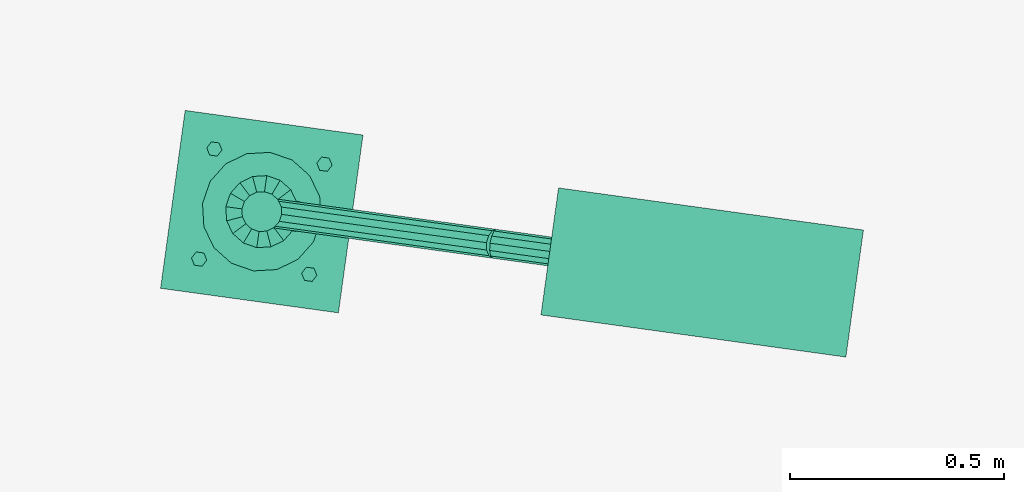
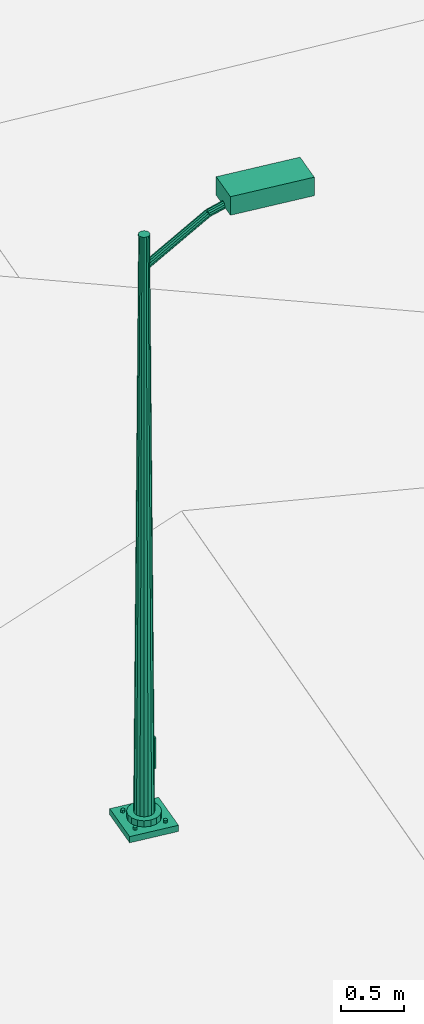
# Not in any storey, part 59 of 75: 1 light fixture.
"""IFC4 model written with IfcOpenShell, lengths in metres."""

from ifc_helpers import new_model, si_unit, direction, origin, origin_with_axes, place, context, subcontext, project, spatial, triangles, element, save


model = new_model("IFC4")

# Units and contexts
model_context = context("Model", 3, precision=1e-05, world=origin_with_axes(), true_north=direction((0.0, 1.0)))
body_context = subcontext(model_context, "Body", "Model", "MODEL_VIEW")
ifc_project = project(units=[si_unit("AREAUNIT", "SQUARE_METRE"), si_unit("VOLUMEUNIT", "CUBIC_METRE"), si_unit("LENGTHUNIT", "METRE")], contexts=[model_context])

# Site
site_placement = place(None, origin_with_axes())
site = spatial("IfcSite", under=ifc_project, at=site_placement, Name="Parcela industrial Jinhong")

# Light fixture
light_fixture_placement = place(None, origin())
element("IfcLightFixture", 1, at=light_fixture_placement, inside=site, Name="Luminaria LED L04 · provisional", ObjectType="Luminaria exterior provisional", PredefinedType="USERDEFINED", context=body_context, shape_type="Tessellation", body=[
    triangles([(122.013239, 53.820711, 2.418719), (122.013239, 53.820711, 2.478719), (122.070711, 54.236761, 2.418719), (122.070711, 54.236761, 2.478719), (122.429289, 53.763239, 2.418719), (122.429289, 53.763239, 2.478719), (122.486761, 54.179289, 2.418719), (122.486761, 54.179289, 2.478719)], [[2, 4, 1], [5, 2, 1], [1, 4, 3], [3, 5, 1], [2, 8, 4], [6, 2, 5], [6, 8, 2], [4, 8, 3], [7, 5, 3], [3, 8, 7], [7, 6, 5], [8, 6, 7]], closed=True),
    triangles([(122.25, 54.0, 2.478719), (122.388683, 53.980843, 2.478719), (122.388683, 53.980843, 2.538719), (122.25, 54.0, 2.538719), (122.385458, 54.035373, 2.478719), (122.385458, 54.035373, 2.538719), (122.36161, 54.084517, 2.478719), (122.36161, 54.084517, 2.538719), (122.320771, 54.120795, 2.478719), (122.320771, 54.120795, 2.538719), (122.269157, 54.138683, 2.478719), (122.269157, 54.138683, 2.538719), (122.214627, 54.135458, 2.478719), (122.214627, 54.135458, 2.538719), (122.165483, 54.11161, 2.478719), (122.165483, 54.11161, 2.538719), (122.129205, 54.070771, 2.478719), (122.129205, 54.070771, 2.538719), (122.111317, 54.019157, 2.478719), (122.111317, 54.019157, 2.538719), (122.114542, 53.964627, 2.478719), (122.114542, 53.964627, 2.538719), (122.13839, 53.915483, 2.478719), (122.13839, 53.915483, 2.538719), (122.179229, 53.879205, 2.478719), (122.179229, 53.879205, 2.538719), (122.230843, 53.861317, 2.478719), (122.230843, 53.861317, 2.538719), (122.285373, 53.864542, 2.478719), (122.285373, 53.864542, 2.538719), (122.334517, 53.88839, 2.478719), (122.334517, 53.88839, 2.538719), (122.370795, 53.929229, 2.478719), (122.370795, 53.929229, 2.538719)], [[2, 1, 5], [2, 5, 3], [3, 5, 6], [3, 6, 4], [5, 1, 7], [5, 7, 6], [6, 7, 8], [6, 8, 4], [7, 1, 9], [7, 9, 8], [8, 9, 10], [8, 10, 4], [9, 1, 11], [9, 11, 10], [10, 11, 12], [10, 12, 4], [11, 1, 13], [11, 13, 12], [12, 13, 14], [12, 14, 4], [13, 1, 15], [13, 15, 14], [14, 15, 16], [14, 16, 4], [15, 1, 17], [15, 17, 16], [16, 17, 18], [16, 18, 4], [17, 1, 19], [17, 19, 18], [18, 19, 20], [18, 20, 4], [19, 1, 21], [19, 21, 20], [20, 21, 22], [20, 22, 4], [21, 1, 23], [21, 23, 22], [22, 23, 24], [22, 24, 4], [23, 1, 25], [23, 25, 24], [24, 25, 26], [24, 26, 4], [25, 1, 27], [25, 27, 26], [26, 27, 28], [26, 28, 4], [27, 1, 29], [27, 29, 28], [28, 29, 30], [28, 30, 4], [29, 1, 31], [29, 31, 30], [30, 31, 32], [30, 32, 4], [31, 1, 33], [31, 33, 32], [32, 33, 34], [32, 34, 4], [33, 1, 2], [33, 2, 34], [34, 2, 3], [34, 3, 4]], closed=True),
    triangles([(122.3342, 53.988369, 2.538719), (122.332242, 54.021476, 2.538719), (122.317763, 54.051314, 2.538719), (122.292968, 54.07334, 2.538719), (122.261631, 54.0842, 2.538719), (122.228524, 54.082242, 2.538719), (122.198686, 54.067763, 2.538719), (122.17666, 54.042968, 2.538719), (122.1658, 54.011631, 2.538719), (122.167758, 53.978524, 2.538719), (122.182237, 53.948686, 2.538719), (122.207032, 53.92666, 2.538719), (122.238369, 53.9158, 2.538719), (122.271476, 53.917758, 2.538719), (122.301314, 53.932237, 2.538719), (122.32334, 53.957032, 2.538719), (122.294577, 53.993842, 8.118719), (122.29354, 54.01137, 8.118719), (122.285875, 54.027166, 8.118719), (122.272748, 54.038827, 8.118719), (122.256158, 54.044577, 8.118719), (122.23863, 54.04354, 8.118719), (122.222834, 54.035875, 8.118719), (122.211173, 54.022748, 8.118719), (122.205423, 54.006158, 8.118719), (122.20646, 53.98863, 8.118719), (122.214125, 53.972834, 8.118719), (122.227252, 53.961173, 8.118719), (122.243842, 53.955423, 8.118719), (122.26137, 53.95646, 8.118719), (122.277166, 53.964125, 8.118719), (122.288827, 53.977252, 8.118719)], [[31, 14, 15], [30, 14, 31], [29, 14, 30], [13, 14, 29], [26, 10, 11], [26, 11, 27], [9, 10, 26], [26, 25, 9], [4, 10, 9], [1, 16, 4], [13, 12, 4], [4, 6, 5], [9, 8, 4], [4, 2, 1], [4, 16, 15], [3, 2, 4], [4, 12, 11], [11, 10, 4], [4, 14, 13], [15, 14, 4], [7, 6, 4], [4, 8, 7], [1, 2, 18], [18, 17, 1], [32, 16, 1], [1, 17, 32], [15, 16, 32], [32, 31, 15], [11, 12, 28], [27, 11, 28], [28, 12, 13], [13, 29, 28], [21, 4, 5], [20, 4, 21], [7, 8, 24], [23, 7, 24], [9, 25, 24], [24, 8, 9], [3, 4, 19], [19, 4, 20], [19, 2, 3], [19, 18, 2], [22, 32, 17], [22, 26, 27], [17, 18, 22], [22, 19, 20], [27, 28, 22], [30, 31, 22], [22, 29, 30], [25, 26, 22], [23, 24, 22], [31, 32, 22], [22, 28, 29], [20, 21, 22], [22, 24, 25], [18, 19, 22], [22, 6, 7], [22, 7, 23], [5, 6, 22], [22, 21, 5]], closed=True),
    triangles([(122.25, 54.0, 8.118719), (122.296558, 53.993569, 8.118719), (122.296558, 53.993569, 8.138719), (122.25, 54.0, 8.138719), (122.295475, 54.011875, 8.118719), (122.295475, 54.011875, 8.138719), (122.287469, 54.028374, 8.118719), (122.287469, 54.028374, 8.138719), (122.273759, 54.040553, 8.118719), (122.273759, 54.040553, 8.138719), (122.256431, 54.046558, 8.118719), (122.256431, 54.046558, 8.138719), (122.238125, 54.045475, 8.118719), (122.238125, 54.045475, 8.138719), (122.221626, 54.037469, 8.118719), (122.221626, 54.037469, 8.138719), (122.209447, 54.023759, 8.118719), (122.209447, 54.023759, 8.138719), (122.203442, 54.006431, 8.118719), (122.203442, 54.006431, 8.138719), (122.204525, 53.988125, 8.118719), (122.204525, 53.988125, 8.138719), (122.212531, 53.971626, 8.118719), (122.212531, 53.971626, 8.138719), (122.226241, 53.959447, 8.118719), (122.226241, 53.959447, 8.138719), (122.243569, 53.953442, 8.118719), (122.243569, 53.953442, 8.138719), (122.261875, 53.954525, 8.118719), (122.261875, 53.954525, 8.138719), (122.278374, 53.962531, 8.118719), (122.278374, 53.962531, 8.138719), (122.290553, 53.976241, 8.118719), (122.290553, 53.976241, 8.138719)], [[2, 1, 5], [2, 5, 3], [3, 5, 6], [3, 6, 4], [5, 1, 7], [5, 7, 6], [6, 7, 8], [6, 8, 4], [7, 1, 9], [7, 9, 8], [8, 9, 10], [8, 10, 4], [9, 1, 11], [9, 11, 10], [10, 11, 12], [10, 12, 4], [11, 1, 13], [11, 13, 12], [12, 13, 14], [12, 14, 4], [13, 1, 15], [13, 15, 14], [14, 15, 16], [14, 16, 4], [15, 1, 17], [15, 17, 16], [16, 17, 18], [16, 18, 4], [17, 1, 19], [17, 19, 18], [18, 19, 20], [18, 20, 4], [19, 1, 21], [19, 21, 20], [20, 21, 22], [20, 22, 4], [21, 1, 23], [21, 23, 22], [22, 23, 24], [22, 24, 4], [23, 1, 25], [23, 25, 24], [24, 25, 26], [24, 26, 4], [25, 1, 27], [25, 27, 26], [26, 27, 28], [26, 28, 4], [27, 1, 29], [27, 29, 28], [28, 29, 30], [28, 30, 4], [29, 1, 31], [29, 31, 30], [30, 31, 32], [30, 32, 4], [31, 1, 33], [31, 33, 32], [32, 33, 34], [32, 34, 4], [33, 1, 2], [33, 2, 34], [34, 2, 3], [34, 3, 4]], closed=True),
    triangles([(122.103434, 53.889012, 2.478719), (122.121265, 53.886549, 2.478719), (122.121265, 53.886549, 2.503719), (122.103434, 53.889012, 2.503719), (122.114482, 53.903222, 2.478719), (122.114482, 53.903222, 2.503719), (122.096652, 53.905685, 2.478719), (122.096652, 53.905685, 2.503719), (122.085603, 53.891475, 2.478719), (122.085603, 53.891475, 2.503719), (122.092385, 53.874802, 2.478719), (122.092385, 53.874802, 2.503719), (122.110216, 53.872338, 2.478719), (122.110216, 53.872338, 2.503719)], [[2, 1, 5], [2, 5, 3], [3, 5, 6], [3, 6, 4], [5, 1, 7], [5, 7, 6], [6, 7, 8], [6, 8, 4], [7, 1, 9], [7, 9, 8], [8, 9, 10], [8, 10, 4], [9, 1, 11], [9, 11, 10], [10, 11, 12], [10, 12, 4], [11, 1, 13], [11, 13, 12], [12, 13, 14], [12, 14, 4], [13, 1, 2], [13, 2, 14], [14, 2, 3], [14, 3, 4]], closed=True),
    triangles([(122.139012, 54.146566, 2.478719), (122.156843, 54.144103, 2.478719), (122.156843, 54.144103, 2.503719), (122.139012, 54.146566, 2.503719), (122.15006, 54.160776, 2.478719), (122.15006, 54.160776, 2.503719), (122.13223, 54.163239, 2.478719), (122.13223, 54.163239, 2.503719), (122.121181, 54.149029, 2.478719), (122.121181, 54.149029, 2.503719), (122.127963, 54.132356, 2.478719), (122.127963, 54.132356, 2.503719), (122.145794, 54.129893, 2.478719), (122.145794, 54.129893, 2.503719)], [[2, 1, 5], [2, 5, 3], [3, 5, 6], [3, 6, 4], [5, 1, 7], [5, 7, 6], [6, 7, 8], [6, 8, 4], [7, 1, 9], [7, 9, 8], [8, 9, 10], [8, 10, 4], [9, 1, 11], [9, 11, 10], [10, 11, 12], [10, 12, 4], [11, 1, 13], [11, 13, 12], [12, 13, 14], [12, 14, 4], [13, 1, 2], [13, 2, 14], [14, 2, 3], [14, 3, 4]], closed=True),
    triangles([(122.360988, 53.853434, 2.478719), (122.378819, 53.850971, 2.478719), (122.378819, 53.850971, 2.503719), (122.360988, 53.853434, 2.503719), (122.372037, 53.867644, 2.478719), (122.372037, 53.867644, 2.503719), (122.354206, 53.870107, 2.478719), (122.354206, 53.870107, 2.503719), (122.343157, 53.855897, 2.478719), (122.343157, 53.855897, 2.503719), (122.34994, 53.839224, 2.478719), (122.34994, 53.839224, 2.503719), (122.36777, 53.836761, 2.478719), (122.36777, 53.836761, 2.503719)], [[2, 1, 5], [2, 5, 3], [3, 5, 6], [3, 6, 4], [5, 1, 7], [5, 7, 6], [6, 7, 8], [6, 8, 4], [7, 1, 9], [7, 9, 8], [8, 9, 10], [8, 10, 4], [9, 1, 11], [9, 11, 10], [10, 11, 12], [10, 12, 4], [11, 1, 13], [11, 13, 12], [12, 13, 14], [12, 14, 4], [13, 1, 2], [13, 2, 14], [14, 2, 3], [14, 3, 4]], closed=True),
    triangles([(122.396566, 54.110988, 2.478719), (122.414397, 54.108525, 2.478719), (122.414397, 54.108525, 2.503719), (122.396566, 54.110988, 2.503719), (122.407615, 54.125198, 2.478719), (122.407615, 54.125198, 2.503719), (122.389784, 54.127662, 2.478719), (122.389784, 54.127662, 2.503719), (122.378735, 54.113451, 2.478719), (122.378735, 54.113451, 2.503719), (122.385518, 54.096778, 2.478719), (122.385518, 54.096778, 2.503719), (122.403348, 54.094315, 2.478719), (122.403348, 54.094315, 2.503719)], [[2, 1, 5], [2, 5, 3], [3, 5, 6], [3, 6, 4], [5, 1, 7], [5, 7, 6], [6, 7, 8], [6, 8, 4], [7, 1, 9], [7, 9, 8], [8, 9, 10], [8, 10, 4], [9, 1, 11], [9, 11, 10], [10, 11, 12], [10, 12, 4], [11, 1, 13], [11, 13, 12], [12, 13, 14], [12, 14, 4], [13, 1, 2], [13, 2, 14], [14, 2, 3], [14, 3, 4]], closed=True),
    triangles([(122.319505, 53.955066, 2.948719), (122.319505, 53.955066, 3.248719), (122.329084, 54.024408, 2.948719), (122.329084, 54.024408, 3.248719), (122.331392, 53.953424, 2.948719), (122.331392, 53.953424, 3.248719), (122.340971, 54.022766, 2.948719), (122.340971, 54.022766, 3.248719)], [[2, 4, 1], [5, 2, 1], [1, 4, 3], [3, 5, 1], [2, 8, 4], [6, 2, 5], [6, 8, 2], [4, 8, 3], [7, 5, 3], [3, 8, 7], [7, 6, 5], [8, 6, 7]], closed=True),
    triangles([(122.25, 54.0, 7.818719), (122.269145, 53.997355, 7.790746), (122.813971, 53.922094, 8.170746), (122.794826, 53.924739, 8.198719), (122.268906, 54.01455, 7.794494), (122.813733, 53.939289, 8.174494), (122.263602, 54.027846, 7.804732), (122.808428, 53.952585, 8.184732), (122.254653, 54.03368, 7.818719), (122.799479, 53.958419, 8.198719), (122.244457, 54.03049, 7.832705), (122.789283, 53.955229, 8.212705), (122.235746, 54.01913, 7.842944), (122.780573, 53.943869, 8.222944), (122.230855, 54.002645, 7.846692), (122.775681, 53.927384, 8.226692), (122.231094, 53.98545, 7.842944), (122.77592, 53.910189, 8.222944), (122.236398, 53.972154, 7.832705), (122.781225, 53.896893, 8.212705), (122.245347, 53.96632, 7.818719), (122.790174, 53.891059, 8.198719), (122.255543, 53.96951, 7.804732), (122.80037, 53.894249, 8.184732), (122.264254, 53.98087, 7.794494), (122.80908, 53.905609, 8.174494)], [[2, 1, 5], [2, 5, 3], [3, 5, 6], [3, 6, 4], [5, 1, 7], [5, 7, 6], [6, 7, 8], [6, 8, 4], [7, 1, 9], [7, 9, 8], [8, 9, 10], [8, 10, 4], [9, 1, 11], [9, 11, 10], [10, 11, 12], [10, 12, 4], [11, 1, 13], [11, 13, 12], [12, 13, 14], [12, 14, 4], [13, 1, 15], [13, 15, 14], [14, 15, 16], [14, 16, 4], [15, 1, 17], [15, 17, 16], [16, 17, 18], [16, 18, 4], [17, 1, 19], [17, 19, 18], [18, 19, 20], [18, 20, 4], [19, 1, 21], [19, 21, 20], [20, 21, 22], [20, 22, 4], [21, 1, 23], [21, 23, 22], [22, 23, 24], [22, 24, 4], [23, 1, 25], [23, 25, 24], [24, 25, 26], [24, 26, 4], [25, 1, 2], [25, 2, 26], [26, 2, 3], [26, 3, 4]], closed=True),
    triangles([(122.794826, 53.924739, 8.198719), (122.80575, 53.92323, 8.166557), (123.152457, 53.875337, 8.286557), (123.141534, 53.876846, 8.318719), (122.806612, 53.940272, 8.170866), (123.15332, 53.892379, 8.290866), (122.804317, 53.953152, 8.182638), (123.151025, 53.905259, 8.302638), (122.799479, 53.958419, 8.198719), (123.146187, 53.910526, 8.318719), (122.793394, 53.954661, 8.2148), (123.140102, 53.906768, 8.3348), (122.787693, 53.942886, 8.226572), (123.1344, 53.894992, 8.346572), (122.783903, 53.926248, 8.230881), (123.130611, 53.878354, 8.350881), (122.78304, 53.909206, 8.226572), (123.129748, 53.861312, 8.346572), (122.785336, 53.896326, 8.2148), (123.132043, 53.848432, 8.3348), (122.790174, 53.891059, 8.198719), (123.136882, 53.843165, 8.318719), (122.796259, 53.894817, 8.182638), (123.142967, 53.846923, 8.302638), (122.80196, 53.906592, 8.170866), (123.148668, 53.858699, 8.290866)], [[2, 1, 5], [2, 5, 3], [3, 5, 6], [3, 6, 4], [5, 1, 7], [5, 7, 6], [6, 7, 8], [6, 8, 4], [7, 1, 9], [7, 9, 8], [8, 9, 10], [8, 10, 4], [9, 1, 11], [9, 11, 10], [10, 11, 12], [10, 12, 4], [11, 1, 13], [11, 13, 12], [12, 13, 14], [12, 14, 4], [13, 1, 15], [13, 15, 14], [14, 15, 16], [14, 16, 4], [15, 1, 17], [15, 17, 16], [16, 17, 18], [16, 18, 4], [17, 1, 19], [17, 19, 18], [18, 19, 20], [18, 20, 4], [19, 1, 21], [19, 21, 20], [20, 21, 22], [20, 22, 4], [21, 1, 23], [21, 23, 22], [22, 23, 24], [22, 24, 4], [23, 1, 25], [23, 25, 24], [24, 25, 26], [24, 26, 4], [25, 1, 2], [25, 2, 26], [26, 2, 3], [26, 3, 4]], closed=True),
    triangles([(122.903078, 53.758361, 8.238719), (122.903078, 53.758361, 8.418719), (122.944129, 54.055539, 8.238719), (122.944129, 54.055539, 8.418719), (123.616305, 53.659837, 8.238719), (123.616305, 53.659837, 8.418719), (123.657357, 53.957015, 8.238719), (123.657357, 53.957015, 8.418719)], [[2, 4, 1], [5, 2, 1], [1, 4, 3], [3, 5, 1], [2, 8, 4], [6, 2, 5], [6, 8, 2], [4, 8, 3], [7, 5, 3], [3, 8, 7], [7, 6, 5], [8, 6, 7]], closed=True),
    triangles([(122.967987, 53.789774, 8.213719), (122.967987, 53.789774, 8.238719), (122.998091, 54.007705, 8.213719), (122.998091, 54.007705, 8.238719), (123.562343, 53.707671, 8.213719), (123.562343, 53.707671, 8.238719), (123.592447, 53.925602, 8.213719), (123.592447, 53.925602, 8.238719)], [[2, 4, 1], [5, 2, 1], [1, 4, 3], [3, 5, 1], [2, 8, 4], [6, 2, 5], [6, 8, 2], [4, 8, 3], [7, 5, 3], [3, 8, 7], [7, 6, 5], [8, 6, 7]], closed=True),
])

save(model, "model.ifc")
